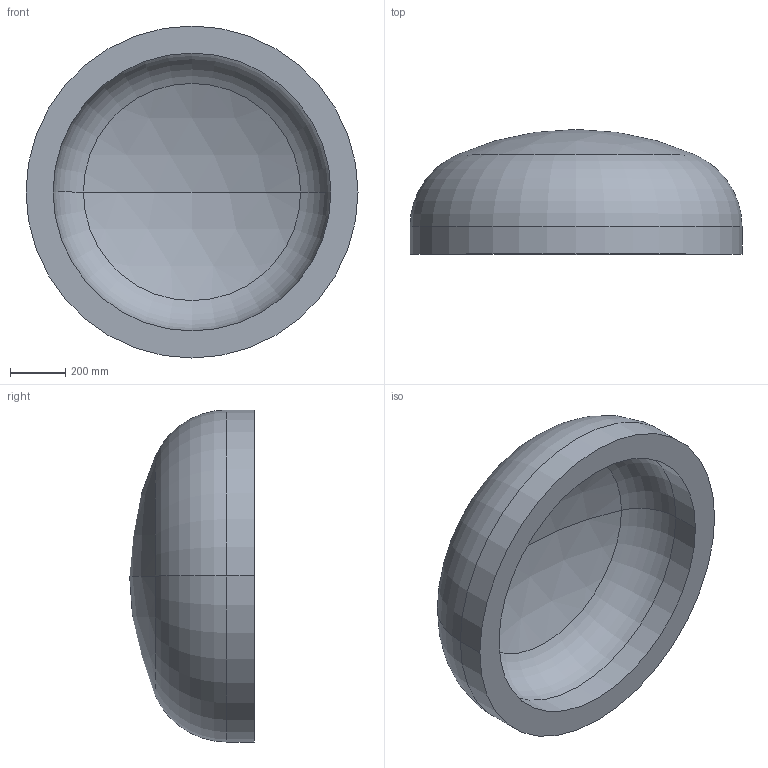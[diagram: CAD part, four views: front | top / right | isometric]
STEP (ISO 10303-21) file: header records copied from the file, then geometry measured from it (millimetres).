
FILE_DESCRIPTION (( 'STEP AP203' ), '1' );
FILE_NAME ('DIN 28013 Korbbogenform_-_Boden DIN 28013 - 1200 x 100 - I - s=98.step', '2016-07-01T09:37:28', ( '' ), ( '' ), 'SwSTEP 2.0', 'SolidWorks 2013', '' );
FILE_SCHEMA (( 'CONFIG_CONTROL_DESIGN' ));
Length unit declared in the file: millimetre
Products named in the file (1): DIN 28013 Korbbogenform_-_Boden DIN 28013 - 1200 x 100 - I - s=98
Bounding box: 1200 x 450.8 x 1200 mm (x, y, z)
Volume: 172526635.5 mm3; surface area: 3880345.1 mm2
Topology: 1 solids, 1 shells, 13 faces, 24 edges, 14 vertices
Faces by surface type: torus 4, cylinder 4, sphere 4, plane 1
Entity records: 407 total; most frequent: DIRECTION 72, CARTESIAN_POINT 52, ORIENTED_EDGE 48, AXIS2_PLACEMENT_3D 34, EDGE_CURVE 24, CIRCLE 20, VERTEX_POINT 14, EDGE_LOOP 14
